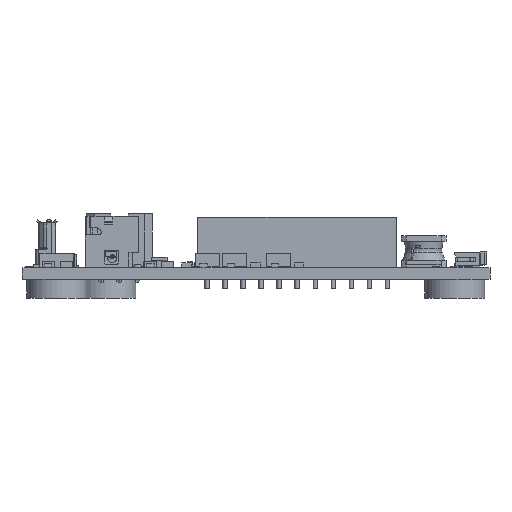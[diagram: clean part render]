
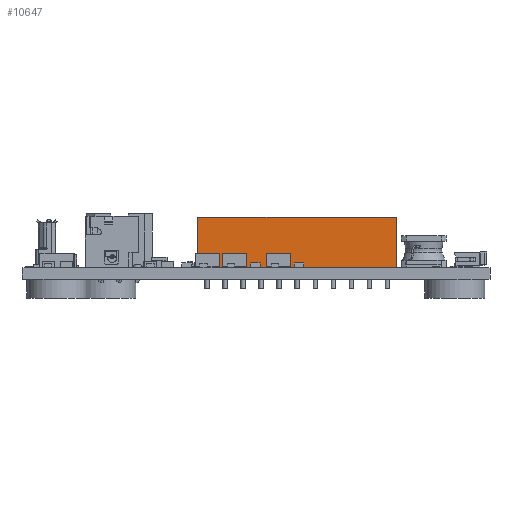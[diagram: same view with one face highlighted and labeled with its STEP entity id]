
A CAD part, front view. The second image highlights one B-rep face of the part: STEP entity #10647.
In plain terms, the highlighted planar face has unit normal (0, -1, 0).
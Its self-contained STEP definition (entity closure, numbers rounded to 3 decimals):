
#4379=FACE_OUTER_BOUND('',#54679,.T.);
#10647=ADVANCED_FACE('',(#4379),#16423,.T.);
#16423=PLANE('',#126756);
#21261=LINE('',#163808,#35545);
#28575=LINE('',#182869,#42859);
#28581=LINE('',#182949,#42865);
#28583=LINE('',#182978,#42867);
#35545=VECTOR('',#131093,1.);
#42859=VECTOR('',#146615,1.);
#42865=VECTOR('',#146705,1.);
#42867=VECTOR('',#146749,1.);
#54679=EDGE_LOOP('',(#75710,#75711,#75712,#75713));
#75710=ORIENTED_EDGE('',*,*,#113367,.T.);
#75711=ORIENTED_EDGE('',*,*,#113410,.F.);
#75712=ORIENTED_EDGE('',*,*,#104797,.F.);
#75713=ORIENTED_EDGE('',*,*,#113402,.T.);
#93360=VERTEX_POINT('',#163807);
#93361=VERTEX_POINT('',#163809);
#99175=VERTEX_POINT('',#182868);
#99176=VERTEX_POINT('',#182870);
#104797=EDGE_CURVE('',#93360,#93361,#21261,.T.);
#113367=EDGE_CURVE('',#99176,#99175,#28575,.T.);
#113402=EDGE_CURVE('',#93360,#99176,#28581,.T.);
#113410=EDGE_CURVE('',#93361,#99175,#28583,.T.);
#126756=AXIS2_PLACEMENT_3D('',#182979,#146750,#146751);
#131093=DIRECTION('',(-1.,0.,0.));
#146615=DIRECTION('',(-1.,0.,0.));
#146705=DIRECTION('',(0.,0.,1.));
#146749=DIRECTION('',(0.,0.,1.));
#146750=DIRECTION('',(0.,-1.,0.));
#146751=DIRECTION('',(1.,0.,0.));
#163807=CARTESIAN_POINT('',(52.82,10.99,0.));
#163808=CARTESIAN_POINT('',(52.82,10.99,0.));
#163809=CARTESIAN_POINT('',(24.78,10.99,0.));
#182868=CARTESIAN_POINT('',(24.78,10.99,7.1));
#182869=CARTESIAN_POINT('',(52.82,10.99,7.1));
#182870=CARTESIAN_POINT('',(52.82,10.99,7.1));
#182949=CARTESIAN_POINT('',(52.82,10.99,0.));
#182978=CARTESIAN_POINT('',(24.78,10.99,0.));
#182979=CARTESIAN_POINT('',(52.82,10.99,0.));
